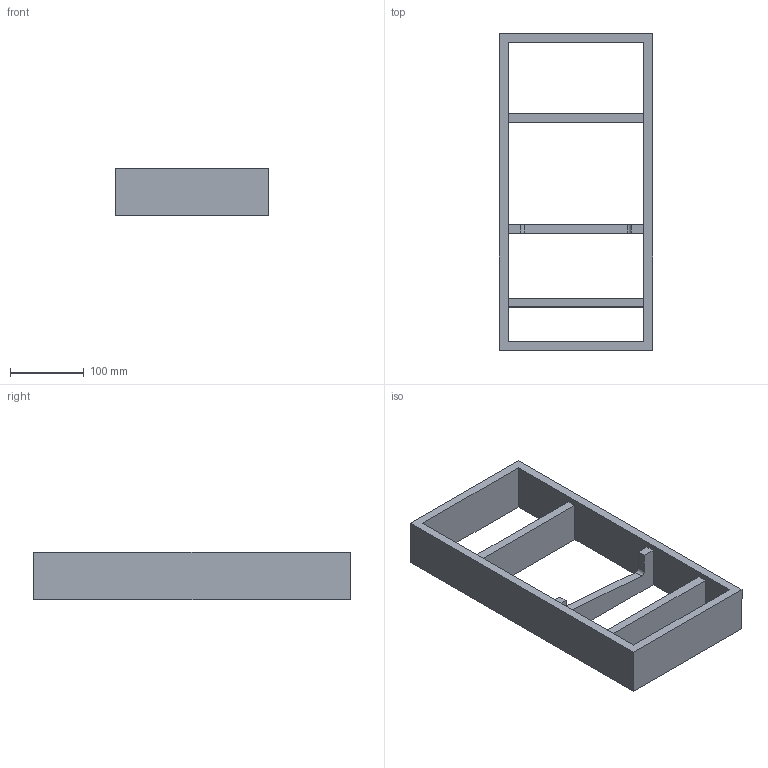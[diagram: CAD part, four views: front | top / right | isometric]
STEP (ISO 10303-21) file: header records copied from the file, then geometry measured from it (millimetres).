
FILE_DESCRIPTION (( 'STEP AP214' ), '1' );
FILE_NAME ('Vario Messer_Modul_H65_NL450_B300_16mm_Alu_Buche.step', '2010-10-07T06:11:41', ( 'grass' ), ( '' ), 'SwSTEP 2.0', 'SolidWorks 2010', '' );
FILE_SCHEMA (( 'AUTOMOTIVE_DESIGN' ));
Length unit declared in the file: millimetre
Products named in the file (1): Vario Messer_Modul_H65_NL450_B300_16mm_Alu_Buche
Bounding box: 208 x 429 x 65 mm (x, y, z)
Volume: 1287178.7 mm3; surface area: 253675.3 mm2
Topology: 1 solids, 1 shells, 25 faces, 78 edges, 52 vertices
Faces by surface type: plane 23, cylinder 2
Entity records: 906 total; most frequent: ORIENTED_EDGE 156, CARTESIAN_POINT 156, DIRECTION 134, EDGE_CURVE 78, LINE 74, VECTOR 74, VERTEX_POINT 52, AXIS2_PLACEMENT_3D 30
